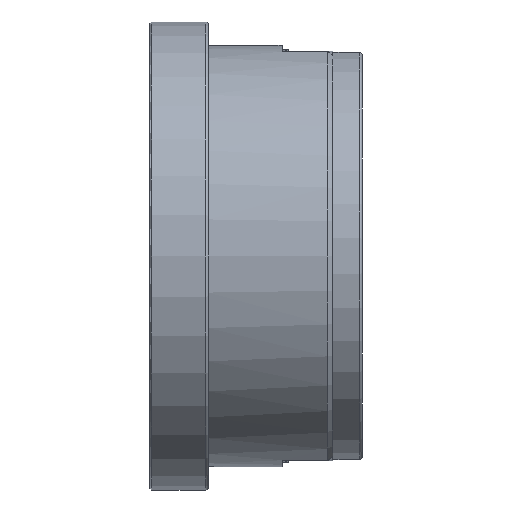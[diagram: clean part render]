
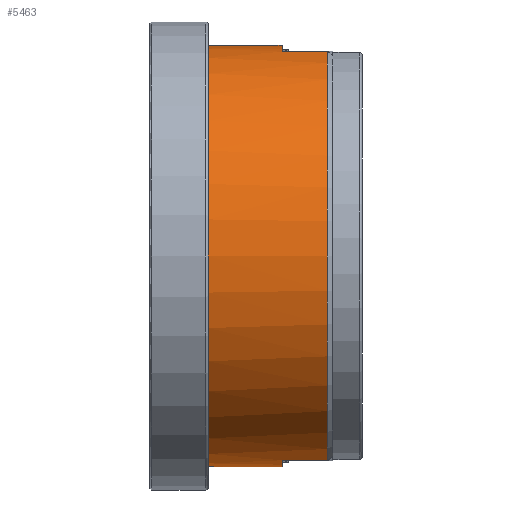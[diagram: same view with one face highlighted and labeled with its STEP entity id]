
A CAD part, left-side view. The second image highlights one B-rep face of the part: STEP entity #5463.
In plain terms, the highlighted cylindrical face has radius 36 mm (diameter 72 mm), a partial arc.
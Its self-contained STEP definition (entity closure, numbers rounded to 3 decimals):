
#1302 = VECTOR ( 'NONE', #4632, 1000. ) ;
#1392 = CARTESIAN_POINT ( 'NONE',  ( -8.743, 1., 34.922 ) ) ;
#2647 = VERTEX_POINT ( 'NONE', #15817 ) ;
#3340 = CARTESIAN_POINT ( 'NONE',  ( -8.743, 143.637, -34.922 ) ) ;
#4191 = DIRECTION ( 'NONE',  ( 0., -1., 0. ) ) ;
#4632 = DIRECTION ( 'NONE',  ( 0., -1., 0. ) ) ;
#5463 = ADVANCED_FACE ( 'NONE', ( #49092 ), #7969, .T. ) ;
#6268 = CIRCLE ( 'NONE', #25445, 36. ) ;
#6687 = VERTEX_POINT ( 'NONE', #34752 ) ;
#7851 = CARTESIAN_POINT ( 'NONE',  ( -3.532, 8.7, -35.892 ) ) ;
#7969 = CYLINDRICAL_SURFACE ( 'NONE', #20035, 36. ) ;
#8477 = EDGE_CURVE ( 'NONE', #50699, #6687, #24202, .T. ) ;
#9469 = CARTESIAN_POINT ( 'NONE',  ( -3.532, 8.7, 35.892 ) ) ;
#12309 = CIRCLE ( 'NONE', #49616, 36. ) ;
#14784 = VERTEX_POINT ( 'NONE', #34108 ) ;
#15817 = CARTESIAN_POINT ( 'NONE',  ( -8.743, 8.7, 34.922 ) ) ;
#16892 = DIRECTION ( 'NONE',  ( 1., 0., 0. ) ) ;
#17055 = CARTESIAN_POINT ( 'NONE',  ( 0., 8.7, -36. ) ) ;
#17068 = CARTESIAN_POINT ( 'NONE',  ( 0., 143.637, -36. ) ) ;
#17380 = ORIENTED_EDGE ( 'NONE', *, *, #61131, .T. ) ;
#17480 = CARTESIAN_POINT ( 'NONE',  ( -8.743, 8.7, -34.922 ) ) ;
#17871 = EDGE_CURVE ( 'NONE', #45347, #43305, #29997, .T. ) ;
#19004 = LINE ( 'NONE', #40801, #50189 ) ;
#19129 = B_SPLINE_CURVE_WITH_KNOTS ( 'NONE', 5,
 ( #24180, #33686, #9469, #48624, #58384, #43472 ),
 .UNSPECIFIED., .F., .F.,
 ( 6, 6 ),
 ( 0., 12.497 ),
 .UNSPECIFIED. ) ;
#20035 = AXIS2_PLACEMENT_3D ( 'NONE', #33566, #38252, #62492 ) ;
#22564 = CARTESIAN_POINT ( 'NONE',  ( -7.03, 8.7, -35.351 ) ) ;
#23162 = CARTESIAN_POINT ( 'NONE',  ( 0., 8.7, -36. ) ) ;
#23295 = B_SPLINE_CURVE_WITH_KNOTS ( 'NONE', 5,
 ( #17480, #22564, #51684, #7851, #36570, #17055 ),
 .UNSPECIFIED., .F., .F.,
 ( 6, 6 ),
 ( 0., 12.497 ),
 .UNSPECIFIED. ) ;
#23505 = EDGE_CURVE ( 'NONE', #32572, #14784, #62153, .T. ) ;
#24180 = CARTESIAN_POINT ( 'NONE',  ( 0., 8.7, 36. ) ) ;
#24202 = LINE ( 'NONE', #58277, #1302 ) ;
#25184 = EDGE_CURVE ( 'NONE', #6687, #2647, #19129, .T. ) ;
#25445 = AXIS2_PLACEMENT_3D ( 'NONE', #31331, #31539, #16892 ) ;
#27617 = EDGE_CURVE ( 'NONE', #2647, #62135, #19004, .T. ) ;
#29997 = LINE ( 'NONE', #17068, #54335 ) ;
#31331 = CARTESIAN_POINT ( 'NONE',  ( 0., 1., 0. ) ) ;
#31539 = DIRECTION ( 'NONE',  ( 0., 1., 0. ) ) ;
#32437 = CARTESIAN_POINT ( 'NONE',  ( 0., 21.3, 36. ) ) ;
#32572 = VERTEX_POINT ( 'NONE', #33394 ) ;
#33394 = CARTESIAN_POINT ( 'NONE',  ( -8.743, 8.7, -34.922 ) ) ;
#33566 = CARTESIAN_POINT ( 'NONE',  ( 0., 143.637, 0. ) ) ;
#33686 = CARTESIAN_POINT ( 'NONE',  ( -1.766, 8.7, 36. ) ) ;
#34077 = CARTESIAN_POINT ( 'NONE',  ( 0., 21.3, 0. ) ) ;
#34108 = CARTESIAN_POINT ( 'NONE',  ( -8.743, 1., -34.922 ) ) ;
#34752 = CARTESIAN_POINT ( 'NONE',  ( 0., 8.7, 36. ) ) ;
#35928 = ORIENTED_EDGE ( 'NONE', *, *, #17871, .T. ) ;
#35936 = DIRECTION ( 'NONE',  ( 0., -1., 0. ) ) ;
#36060 = DIRECTION ( 'NONE',  ( 0., -1., 0. ) ) ;
#36570 = CARTESIAN_POINT ( 'NONE',  ( -1.766, 8.7, -36. ) ) ;
#37538 = EDGE_LOOP ( 'NONE', ( #48661, #45519, #35928, #48878, #59695, #17380, #54701, #56815 ) ) ;
#38252 = DIRECTION ( 'NONE',  ( 0., -1., 0. ) ) ;
#38358 = DIRECTION ( 'NONE',  ( 0., 0., 1. ) ) ;
#40770 = CARTESIAN_POINT ( 'NONE',  ( 0., 21.3, -36. ) ) ;
#40801 = CARTESIAN_POINT ( 'NONE',  ( -8.743, 143.637, 34.922 ) ) ;
#40929 = VECTOR ( 'NONE', #4191, 1000. ) ;
#43305 = VERTEX_POINT ( 'NONE', #23162 ) ;
#43472 = CARTESIAN_POINT ( 'NONE',  ( -8.743, 8.7, 34.922 ) ) ;
#43963 = EDGE_CURVE ( 'NONE', #50699, #45347, #12309, .T. ) ;
#45347 = VERTEX_POINT ( 'NONE', #40770 ) ;
#45519 = ORIENTED_EDGE ( 'NONE', *, *, #43963, .T. ) ;
#48624 = CARTESIAN_POINT ( 'NONE',  ( -5.29, 8.7, 35.675 ) ) ;
#48661 = ORIENTED_EDGE ( 'NONE', *, *, #8477, .F. ) ;
#48878 = ORIENTED_EDGE ( 'NONE', *, *, #60100, .F. ) ;
#49092 = FACE_OUTER_BOUND ( 'NONE', #37538, .T. ) ;
#49616 = AXIS2_PLACEMENT_3D ( 'NONE', #34077, #62604, #38358 ) ;
#50189 = VECTOR ( 'NONE', #36060, 1000. ) ;
#50699 = VERTEX_POINT ( 'NONE', #32437 ) ;
#51684 = CARTESIAN_POINT ( 'NONE',  ( -5.29, 8.7, -35.675 ) ) ;
#54335 = VECTOR ( 'NONE', #35936, 1000. ) ;
#54701 = ORIENTED_EDGE ( 'NONE', *, *, #27617, .F. ) ;
#56815 = ORIENTED_EDGE ( 'NONE', *, *, #25184, .F. ) ;
#58277 = CARTESIAN_POINT ( 'NONE',  ( 0., 143.637, 36. ) ) ;
#58384 = CARTESIAN_POINT ( 'NONE',  ( -7.03, 8.7, 35.351 ) ) ;
#59695 = ORIENTED_EDGE ( 'NONE', *, *, #23505, .T. ) ;
#60100 = EDGE_CURVE ( 'NONE', #32572, #43305, #23295, .T. ) ;
#61131 = EDGE_CURVE ( 'NONE', #14784, #62135, #6268, .T. ) ;
#62135 = VERTEX_POINT ( 'NONE', #1392 ) ;
#62153 = LINE ( 'NONE', #3340, #40929 ) ;
#62492 = DIRECTION ( 'NONE',  ( 0., 0., -1. ) ) ;
#62604 = DIRECTION ( 'NONE',  ( 0., -1., 0. ) ) ;
